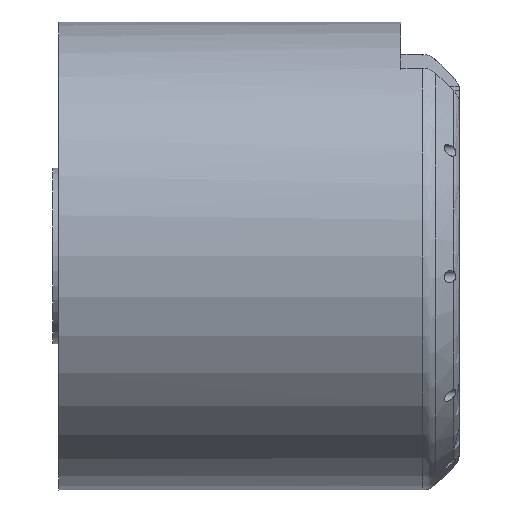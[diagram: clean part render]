
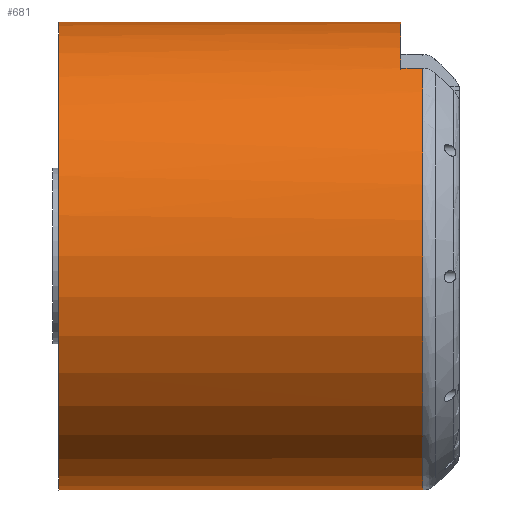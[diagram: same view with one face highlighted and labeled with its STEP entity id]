
A CAD part, left-side view. The second image highlights one B-rep face of the part: STEP entity #681.
In plain terms, the highlighted cylindrical face has radius 40 mm (diameter 80 mm), a full revolution.
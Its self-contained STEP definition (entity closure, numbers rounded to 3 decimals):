
#240=CYLINDRICAL_SURFACE('',#2478,40.);
#278=LINE('',#3368,#479);
#279=LINE('',#3372,#480);
#479=VECTOR('',#2710,1.);
#480=VECTOR('',#2713,1.);
#681=ADVANCED_FACE('',(#920,#921),#240,.T.);
#920=FACE_BOUND('',#1037,.T.);
#921=FACE_BOUND('',#1038,.T.);
#1037=EDGE_LOOP('',(#1244,#1245,#1246,#1247));
#1038=EDGE_LOOP('',(#1248));
#1244=ORIENTED_EDGE('',*,*,#2085,.F.);
#1245=ORIENTED_EDGE('',*,*,#2086,.T.);
#1246=ORIENTED_EDGE('',*,*,#2087,.T.);
#1247=ORIENTED_EDGE('',*,*,#2088,.F.);
#1248=ORIENTED_EDGE('',*,*,#2089,.F.);
#1856=VERTEX_POINT('',#3366);
#1857=VERTEX_POINT('',#3367);
#1858=VERTEX_POINT('',#3369);
#1859=VERTEX_POINT('',#3371);
#1860=VERTEX_POINT('',#3374);
#2085=EDGE_CURVE('',#1856,#1857,#2391,.T.);
#2086=EDGE_CURVE('',#1856,#1858,#278,.T.);
#2087=EDGE_CURVE('',#1858,#1859,#2392,.T.);
#2088=EDGE_CURVE('',#1857,#1859,#279,.T.);
#2089=EDGE_CURVE('',#1860,#1860,#2393,.T.);
#2391=CIRCLE('',#2475,40.);
#2392=CIRCLE('',#2476,40.);
#2393=CIRCLE('',#2477,40.);
#2475=AXIS2_PLACEMENT_3D('',#3365,#2708,#2709);
#2476=AXIS2_PLACEMENT_3D('',#3370,#2711,#2712);
#2477=AXIS2_PLACEMENT_3D('',#3373,#2714,#2715);
#2478=AXIS2_PLACEMENT_3D('',#3375,#2716,#2717);
#2708=DIRECTION('',(0.,-1.,0.));
#2709=DIRECTION('',(1.,0.,0.));
#2710=DIRECTION('',(0.,-1.,0.));
#2711=DIRECTION('',(0.,1.,0.));
#2712=DIRECTION('',(-1.,0.,0.));
#2713=DIRECTION('',(0.,-1.,0.));
#2714=DIRECTION('',(0.,1.,0.));
#2715=DIRECTION('',(-1.,0.,0.));
#2716=DIRECTION('',(0.,-1.,0.));
#2717=DIRECTION('',(0.,0.,-1.));
#3365=CARTESIAN_POINT('',(0.017,7.978,-0.331));
#3366=CARTESIAN_POINT('',(20.319,7.978,34.135));
#3367=CARTESIAN_POINT('',(-23.866,7.978,31.757));
#3368=CARTESIAN_POINT('',(20.319,7.978,34.135));
#3369=CARTESIAN_POINT('',(20.319,4.239,34.135));
#3370=CARTESIAN_POINT('',(0.017,4.239,-0.331));
#3371=CARTESIAN_POINT('',(-23.866,4.239,31.757));
#3372=CARTESIAN_POINT('',(-23.866,7.978,31.757));
#3373=CARTESIAN_POINT('',(0.017,66.478,-0.331));
#3374=CARTESIAN_POINT('',(-39.983,66.478,-0.331));
#3375=CARTESIAN_POINT('',(0.017,45.72,-0.331));
